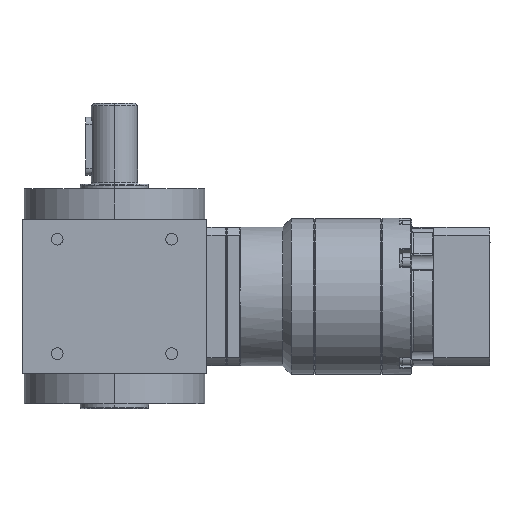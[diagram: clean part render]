
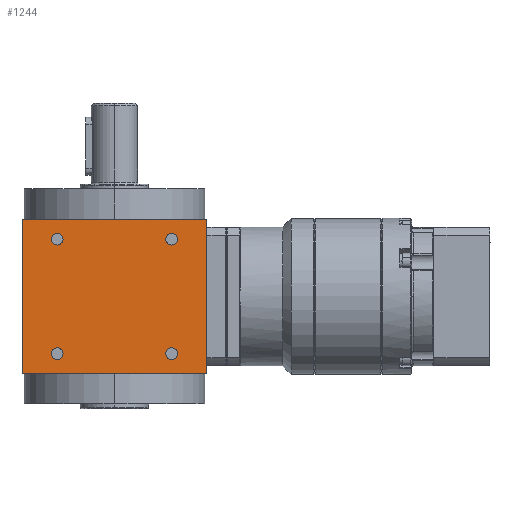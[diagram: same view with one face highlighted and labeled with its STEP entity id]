
A CAD part, left-side view. The second image highlights one B-rep face of the part: STEP entity #1244.
In plain terms, the highlighted planar face has unit normal (-1, 0, 0).
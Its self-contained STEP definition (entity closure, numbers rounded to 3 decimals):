
#543 = AXIS2_PLACEMENT_3D ( 'NONE', #20217, #30274, #17801 ) ;
#756 = ORIENTED_EDGE ( 'NONE', *, *, #2146, .T. ) ;
#981 = VERTEX_POINT ( 'NONE', #11203 ) ;
#1237 = FACE_BOUND ( 'NONE', #9443, .T. ) ;
#1244 = ADVANCED_FACE ( 'NONE', ( #11271, #4121, #23448, #1237, #21023 ), #18915, .T. ) ;
#1571 = CIRCLE ( 'NONE', #543, 2.5 ) ;
#1643 = VECTOR ( 'NONE', #18339, 1000. ) ;
#1702 = VECTOR ( 'NONE', #22168, 1000. ) ;
#1836 = ORIENTED_EDGE ( 'NONE', *, *, #19047, .T. ) ;
#2146 = EDGE_CURVE ( 'NONE', #2401, #7666, #19151, .T. ) ;
#2401 = VERTEX_POINT ( 'NONE', #3577 ) ;
#2746 = ORIENTED_EDGE ( 'NONE', *, *, #25893, .T. ) ;
#2864 = DIRECTION ( 'NONE',  ( 0., 0., 1. ) ) ;
#3577 = CARTESIAN_POINT ( 'NONE',  ( -40., 22.25, -24.75 ) ) ;
#3896 = ORIENTED_EDGE ( 'NONE', *, *, #13073, .T. ) ;
#4015 = EDGE_CURVE ( 'NONE', #24493, #29295, #18012, .T. ) ;
#4121 = FACE_BOUND ( 'NONE', #29431, .T. ) ;
#4237 = ORIENTED_EDGE ( 'NONE', *, *, #14286, .F. ) ;
#4384 = VECTOR ( 'NONE', #2864, 1000. ) ;
#4444 = ORIENTED_EDGE ( 'NONE', *, *, #22167, .T. ) ;
#4783 = CARTESIAN_POINT ( 'NONE',  ( -40., -40., -33.5 ) ) ;
#5138 = AXIS2_PLACEMENT_3D ( 'NONE', #16725, #18991, #26614 ) ;
#5260 = DIRECTION ( 'NONE',  ( 1., 0., 0. ) ) ;
#5858 = DIRECTION ( 'NONE',  ( 0., -1., 0. ) ) ;
#6140 = EDGE_LOOP ( 'NONE', ( #24099, #2746 ) ) ;
#6606 = DIRECTION ( 'NONE',  ( 1., 0., 0. ) ) ;
#6771 = DIRECTION ( 'NONE',  ( 0., -1., 0. ) ) ;
#6789 = EDGE_LOOP ( 'NONE', ( #4237, #1836, #4444, #13815 ) ) ;
#7123 = VERTEX_POINT ( 'NONE', #24549 ) ;
#7176 = CARTESIAN_POINT ( 'NONE',  ( -40., -22.25, -24.75 ) ) ;
#7666 = VERTEX_POINT ( 'NONE', #20105 ) ;
#7806 = ORIENTED_EDGE ( 'NONE', *, *, #20084, .T. ) ;
#7896 = CIRCLE ( 'NONE', #17269, 2.5 ) ;
#8082 = CARTESIAN_POINT ( 'NONE',  ( -40., 22.25, 24.75 ) ) ;
#8413 = CARTESIAN_POINT ( 'NONE',  ( -40., 0., 33.5 ) ) ;
#8569 = CARTESIAN_POINT ( 'NONE',  ( -40., 24.75, 24.75 ) ) ;
#8929 = ORIENTED_EDGE ( 'NONE', *, *, #12359, .T. ) ;
#9443 = EDGE_LOOP ( 'NONE', ( #8929, #30675 ) ) ;
#10146 = LINE ( 'NONE', #12587, #4384 ) ;
#10299 = VERTEX_POINT ( 'NONE', #8082 ) ;
#10698 = CARTESIAN_POINT ( 'NONE',  ( -40., 24.75, -24.75 ) ) ;
#10991 = AXIS2_PLACEMENT_3D ( 'NONE', #29780, #5260, #27330 ) ;
#11203 = CARTESIAN_POINT ( 'NONE',  ( -40., -27.25, -24.75 ) ) ;
#11271 = FACE_OUTER_BOUND ( 'NONE', #6789, .T. ) ;
#12266 = CARTESIAN_POINT ( 'NONE',  ( -40., 0., -33.5 ) ) ;
#12281 = CARTESIAN_POINT ( 'NONE',  ( -40., 40., -33.5 ) ) ;
#12359 = EDGE_CURVE ( 'NONE', #32037, #16760, #30239, .T. ) ;
#12409 = LINE ( 'NONE', #12266, #1702 ) ;
#12587 = CARTESIAN_POINT ( 'NONE',  ( -40., 40., -33.5 ) ) ;
#12810 = DIRECTION ( 'NONE',  ( 0., -1., 0. ) ) ;
#13073 = EDGE_CURVE ( 'NONE', #7666, #2401, #26672, .T. ) ;
#13300 = ORIENTED_EDGE ( 'NONE', *, *, #20561, .T. ) ;
#13704 = DIRECTION ( 'NONE',  ( 1., 0., 0. ) ) ;
#13815 = ORIENTED_EDGE ( 'NONE', *, *, #4015, .F. ) ;
#14286 = EDGE_CURVE ( 'NONE', #15333, #24493, #10146, .T. ) ;
#14600 = AXIS2_PLACEMENT_3D ( 'NONE', #31437, #6606, #6771 ) ;
#15307 = CARTESIAN_POINT ( 'NONE',  ( -40., -40., 33.5 ) ) ;
#15333 = VERTEX_POINT ( 'NONE', #12281 ) ;
#15664 = CARTESIAN_POINT ( 'NONE',  ( -40., -22.25, 24.75 ) ) ;
#16264 = AXIS2_PLACEMENT_3D ( 'NONE', #28777, #13704, #16297 ) ;
#16297 = DIRECTION ( 'NONE',  ( 0., -1., 0. ) ) ;
#16315 = CARTESIAN_POINT ( 'NONE',  ( -40., -27.25, 24.75 ) ) ;
#16725 = CARTESIAN_POINT ( 'NONE',  ( -40., 24.75, -24.75 ) ) ;
#16760 = VERTEX_POINT ( 'NONE', #15664 ) ;
#16992 = VERTEX_POINT ( 'NONE', #4783 ) ;
#17269 = AXIS2_PLACEMENT_3D ( 'NONE', #19850, #26981, #5858 ) ;
#17572 = EDGE_CURVE ( 'NONE', #16760, #32037, #1571, .T. ) ;
#17801 = DIRECTION ( 'NONE',  ( 0., -1., 0. ) ) ;
#18012 = LINE ( 'NONE', #8413, #1643 ) ;
#18157 = DIRECTION ( 'NONE',  ( 1., 0., 0. ) ) ;
#18339 = DIRECTION ( 'NONE',  ( 0., -1., 0. ) ) ;
#18429 = DIRECTION ( 'NONE',  ( 0., -1., 0. ) ) ;
#18915 = PLANE ( 'NONE',  #26910 ) ;
#18991 = DIRECTION ( 'NONE',  ( 1., 0., 0. ) ) ;
#19047 = EDGE_CURVE ( 'NONE', #15333, #16992, #12409, .T. ) ;
#19151 = CIRCLE ( 'NONE', #5138, 2.5 ) ;
#19687 = EDGE_CURVE ( 'NONE', #10299, #7123, #29082, .T. ) ;
#19850 = CARTESIAN_POINT ( 'NONE',  ( -40., -24.75, -24.75 ) ) ;
#20084 = EDGE_CURVE ( 'NONE', #981, #25244, #26534, .T. ) ;
#20105 = CARTESIAN_POINT ( 'NONE',  ( -40., 27.25, -24.75 ) ) ;
#20217 = CARTESIAN_POINT ( 'NONE',  ( -40., -24.75, 24.75 ) ) ;
#20561 = EDGE_CURVE ( 'NONE', #25244, #981, #7896, .T. ) ;
#20592 = DIRECTION ( 'NONE',  ( 1., 0., 0. ) ) ;
#21023 = FACE_BOUND ( 'NONE', #28261, .T. ) ;
#22167 = EDGE_CURVE ( 'NONE', #16992, #29295, #23360, .T. ) ;
#22168 = DIRECTION ( 'NONE',  ( 0., -1., 0. ) ) ;
#23360 = LINE ( 'NONE', #26124, #25790 ) ;
#23448 = FACE_BOUND ( 'NONE', #6140, .T. ) ;
#24099 = ORIENTED_EDGE ( 'NONE', *, *, #19687, .T. ) ;
#24493 = VERTEX_POINT ( 'NONE', #30713 ) ;
#24549 = CARTESIAN_POINT ( 'NONE',  ( -40., 27.25, 24.75 ) ) ;
#25244 = VERTEX_POINT ( 'NONE', #7176 ) ;
#25790 = VECTOR ( 'NONE', #30981, 1000. ) ;
#25893 = EDGE_CURVE ( 'NONE', #7123, #10299, #26554, .T. ) ;
#26037 = AXIS2_PLACEMENT_3D ( 'NONE', #8569, #18157, #28355 ) ;
#26124 = CARTESIAN_POINT ( 'NONE',  ( -40., -40., -33.5 ) ) ;
#26534 = CIRCLE ( 'NONE', #10991, 2.5 ) ;
#26554 = CIRCLE ( 'NONE', #26037, 2.5 ) ;
#26614 = DIRECTION ( 'NONE',  ( 0., -1., 0. ) ) ;
#26672 = CIRCLE ( 'NONE', #29790, 2.5 ) ;
#26910 = AXIS2_PLACEMENT_3D ( 'NONE', #30899, #31052, #18429 ) ;
#26981 = DIRECTION ( 'NONE',  ( 1., 0., 0. ) ) ;
#27330 = DIRECTION ( 'NONE',  ( 0., -1., 0. ) ) ;
#28261 = EDGE_LOOP ( 'NONE', ( #7806, #13300 ) ) ;
#28355 = DIRECTION ( 'NONE',  ( 0., -1., 0. ) ) ;
#28777 = CARTESIAN_POINT ( 'NONE',  ( -40., -24.75, 24.75 ) ) ;
#29082 = CIRCLE ( 'NONE', #14600, 2.5 ) ;
#29295 = VERTEX_POINT ( 'NONE', #15307 ) ;
#29431 = EDGE_LOOP ( 'NONE', ( #756, #3896 ) ) ;
#29780 = CARTESIAN_POINT ( 'NONE',  ( -40., -24.75, -24.75 ) ) ;
#29790 = AXIS2_PLACEMENT_3D ( 'NONE', #10698, #20592, #12810 ) ;
#30239 = CIRCLE ( 'NONE', #16264, 2.5 ) ;
#30274 = DIRECTION ( 'NONE',  ( 1., 0., 0. ) ) ;
#30675 = ORIENTED_EDGE ( 'NONE', *, *, #17572, .T. ) ;
#30713 = CARTESIAN_POINT ( 'NONE',  ( -40., 40., 33.5 ) ) ;
#30899 = CARTESIAN_POINT ( 'NONE',  ( -40., 40., -33.5 ) ) ;
#30981 = DIRECTION ( 'NONE',  ( 0., 0., 1. ) ) ;
#31052 = DIRECTION ( 'NONE',  ( -1., 0., 0. ) ) ;
#31437 = CARTESIAN_POINT ( 'NONE',  ( -40., 24.75, 24.75 ) ) ;
#32037 = VERTEX_POINT ( 'NONE', #16315 ) ;
